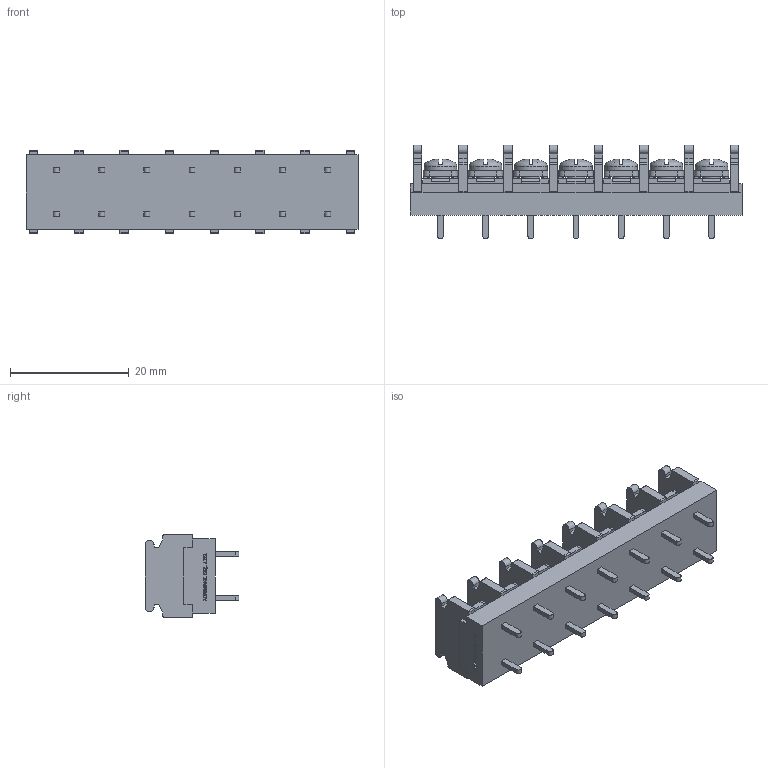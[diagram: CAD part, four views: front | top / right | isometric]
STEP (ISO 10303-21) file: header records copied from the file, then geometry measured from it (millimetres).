
FILE_DESCRIPTION(/* description */ ('Alibre Inc.'),/* implementation_level */ '2;1');
FILE_NAME(/* name */ 'export0',/* time_stamp */ '2015-10-23T20:18:08+09:00',/* author */ (''),/* organization */ (''),/* preprocessor_version */ 'ST-DEVELOPER v14',/* originating_system */ 'Alibre',/* authorisation */ '');
FILE_SCHEMA (('CONFIG_CONTROL_DESIGN'));
Length unit declared in the file: centimetre
Products named in the file (1): ID_1
Bounding box: 55.96 x 15.8 x 14 mm (x, y, z)
Volume: 5322.7 mm3; surface area: 5173.3 mm2
Topology: 1 solids, 1 shells, 1221 faces, 3330 edges, 2186 vertices
Faces by surface type: plane 943, cylinder 118, bspline 104, cone 28, torus 14, sphere 14
Full cylindrical faces by diameter (mm): 3 x7, 5.5 x7
Entity records: 36641 total; most frequent: CARTESIAN_POINT 7876, ORIENTED_EDGE 6576, DIRECTION 4552, EDGE_CURVE 3288, VECTOR 2424, LINE 2424, VERTEX_POINT 2172, AXIS2_PLACEMENT_3D 1500
